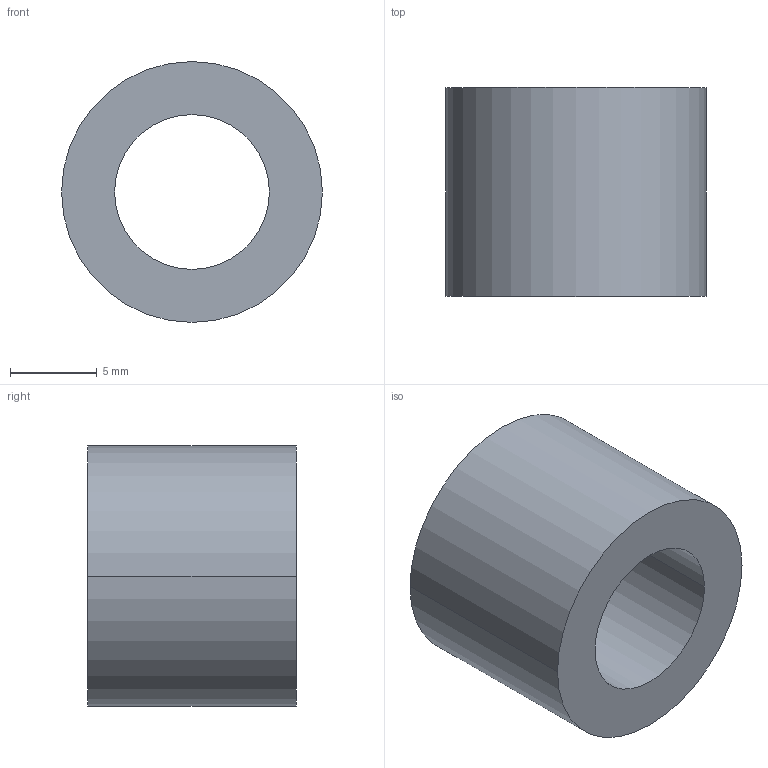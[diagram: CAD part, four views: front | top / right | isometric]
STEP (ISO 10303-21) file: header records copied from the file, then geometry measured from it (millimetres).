
FILE_DESCRIPTION (( 'STEP AP203' ), '1' );
FILE_NAME ('30800.WPP15E8.9.step', '2019-01-23T22:31:23', ( '' ), ( '' ), 'SwSTEP 2.0', 'SolidWorks 2017', '' );
FILE_SCHEMA (( 'CONFIG_CONTROL_DESIGN' ));
Length unit declared in the file: millimetre
Products named in the file (1): 30800.WPP15E8.9
Bounding box: 15 x 12 x 15 mm (x, y, z)
Volume: 1347.6 mm3; surface area: 1107.8 mm2
Topology: 1 solids, 1 shells, 8 faces, 16 edges, 10 vertices
Faces by surface type: cylinder 4, torus 2, plane 2
Entity records: 297 total; most frequent: DIRECTION 46, CARTESIAN_POINT 35, ORIENTED_EDGE 32, AXIS2_PLACEMENT_3D 21, EDGE_CURVE 16, CIRCLE 12, EDGE_LOOP 10, VERTEX_POINT 10
